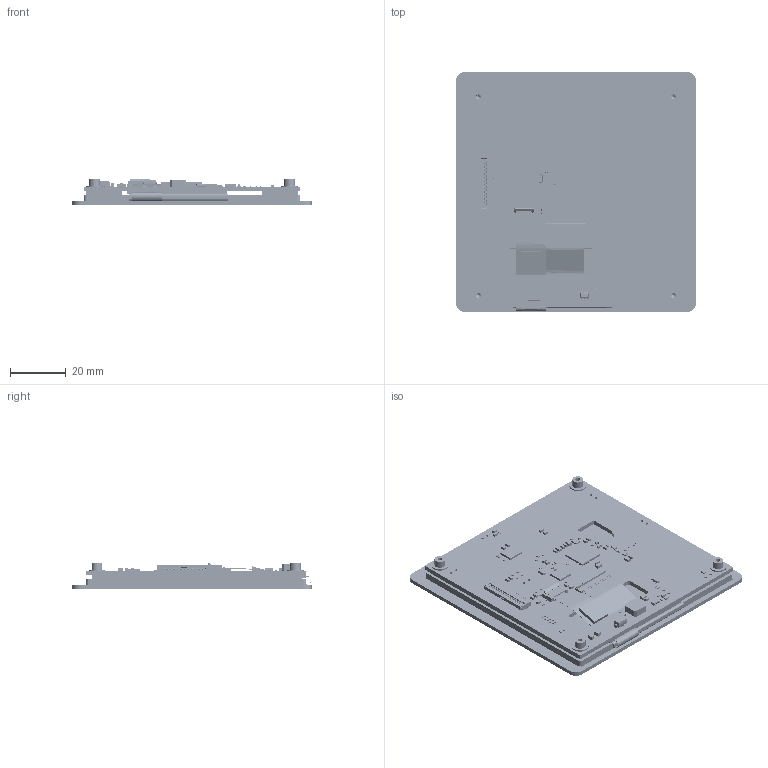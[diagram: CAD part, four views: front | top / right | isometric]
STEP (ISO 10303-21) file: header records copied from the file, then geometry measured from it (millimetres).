
FILE_DESCRIPTION (( 'STEP AP214' ), '1' );
FILE_NAME ('CFA480480E0-040TW.STEP', '2024-12-11T23:29:25', ( '' ), ( '' ), 'SwSTEP 2.0', 'SolidWorks 2021', '' );
FILE_SCHEMA (( 'AUTOMOTIVE_DESIGN' ));
Length unit declared in the file: millimetre
Products named in the file (52): QFN50P900X900X80_HS-65N_CMP-007-000016-3; 00289_CAM_00289_SCH-1; 16110_CAM_00191_SCH-1; ERJ2R_Family_CAM_CMP-005-000028-2; FP-CL696-IPC_B_CMP-001-00089-1; 17034_CMP-009-00206-2; 00133_CAM_00133_SCH-15; cfa-10118_4_inch_EVE_BOARD; SON127P600X80_HS-9N_CMP-002-00081-2; ERJ2R_Family_CAM_CMP-005-000029-3; 00289_CAM_CMP-004-000008-1; 01655_CAM_01655_SCH-1; ERJ2R_Family_CAM_CMP-009-00186-2; CFA480480E0-040TW; ERJ2R_Family_CAM_CMP-009-00187-1; FP-SOT23-IPC_B_CMP-007-000034-2; FP-CL165-IPC_B_CMP-001-00090-2; 00289_CAM_CMP-004-000008-2; cfa-10118_4_inch_EVE; RESC0402(1005)_L_CMP-009-00203-6; ERJ2R_Family_CAM_03068_SCH-1; FP-SOT26_SC74R-MFG_CMP-001-0018-1; CS050Z10G-A0; ERJ2R_Family_CAM_CMP-009-00188-1; CFAF480480A0-040TN; ERJ2R_Family_CAM_CMP-005-000027-2; 00133_CAM_CMP-004-000007-3; FA-20H_12.0000MD30Z-K3_CMP-002-00080-3; 03064_CAM_03063_SCH-1; CFPN_01712; 01655_CAM_CMP-004-000010-1; 03064_CAM_03064_SCH-1; FP-CL313-IPC_B_CMP-001-00085-3; ERJ2R_Family_CAM_CMP-009-00184-2; ERJ2R_Family_CAM_CMP-009-00185-2; 00289_CAM_CMP-004-000001-1; ERJ2R_Family_CAM_CMP-009-00183-1; CS030Z45G-A0 ; 15032_CAM_CMP-004-000012-1; QFN50P500X500X85_HS-33N_CMP-007-000032-3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
Assembly tree (93 placements, depth 4):
  CFA480480E0-040TW
    CFA480480E0-040TN
      cfa-10118_4_inch_EVE
        cfa-10118_4_inch_EVE_BOARD
        FP-C1608-080-0_1-MFG_CMP-004-000007-3  x5
        FP-C1608-080-0_1-MFG_CMP-004-000007-4  x3
        00133_CAM_00133_SCH-15  x4
        RESC0402(1005)_L_CMP-009-00203-6  x3
        ERJ2R_Family_CAM_CMP-009-00179-1  x7
        SON127P600X80_HS-9N_CMP-002-00081-2
        FA-20H_12.0000MD30Z-K3_CMP-002-00080-3
        INDP6060X25N_CMP-007-000033-1
        ERJ2R_Family_CAM_CMP-005-000027-2  x5
        QFN50P900X900X80_HS-65N_CMP-007-000016-3
        01655_CAM_CMP-004-000010-1  x4
        00289_CAM_CMP-004-000008-1  x2
        00133_CAM_CMP-004-000007-3  x2
        ERJ2R_Family_CAM_CMP-009-00188-1
        FP-SOT23-IPC_B_CMP-007-000034-2  x2
        FP-CL313-IPC_B_CMP-001-00085-3
        CL05_Footprint_CMP-007-000018-1
        FP-SOT26_SC74R-MFG_CMP-001-0018-1
        QFN50P500X500X85_HS-33N_CMP-007-000032-3
        ERJ2R_Family_CAM_CMP-009-00183-1
        ERJ2R_Family_CAM_03071_SCH-1
        16110_CAM_00191_SCH-1
        ERJ2R_Family_CAM_03068_SCH-1
        03064_CAM_03064_SCH-1
        03064_CAM_03063_SCH-1  x2
        ERJ2R_Family_CAM_CMP-005-000028-2  x2
        17034_CMP-009-00206-2
        ERJ2R_Family_CAM_CMP-009-00187-1
        ERJ2R_Family_CAM_CMP-009-00186-2
        ERJ2R_Family_CAM_CMP-009-00185-2
        ERJ2R_Family_CAM_CMP-009-00184-2
        ERJ2R_Family_CAM_CMP-005-000029-3
        CS050Y30T-B0_CAM_CMP-009-000039-3
        FP-DO-214AC-MFG_CMP-004-00040-1
        00289_CAM_00289_SCH-1  x8
        00289_CAM_CMP-004-000001-1
        00289_CAM_CMP-004-000008-2
        FP-CL696-IPC_B_CMP-001-00089-1  x2
        00133_CAM_CMP-004-000007-1
        FP-CL165-IPC_B_CMP-001-00090-2
        15032_CAM_CMP-004-000012-1  x2
        01655_CAM_01655_SCH-1
      clear_1mm_tape  x2
      CFAF480480A0-040TN
      CFPN_01712  x4
      CS030Z45G-A0 
      CS050Z10G-A0
    cap touch screen
Bounding box: 86 x 86 x 9.65 mm (x, y, z)
Volume: 36152.2 mm3; surface area: 50864.3 mm2
Topology: 539 solids, 654 shells, 14561 faces, 37876 edges, 24539 vertices
Faces by surface type: plane 9569, cylinder 3298, bspline 1380, sphere 298, torus 8, cone 8
Entity records: 421348 total; most frequent: CARTESIAN_POINT 99312, ORIENTED_EDGE 65192, DIRECTION 55785, EDGE_CURVE 32599, VECTOR 22477, LINE 22477, VERTEX_POINT 21156, AXIS2_PLACEMENT_3D 16654
